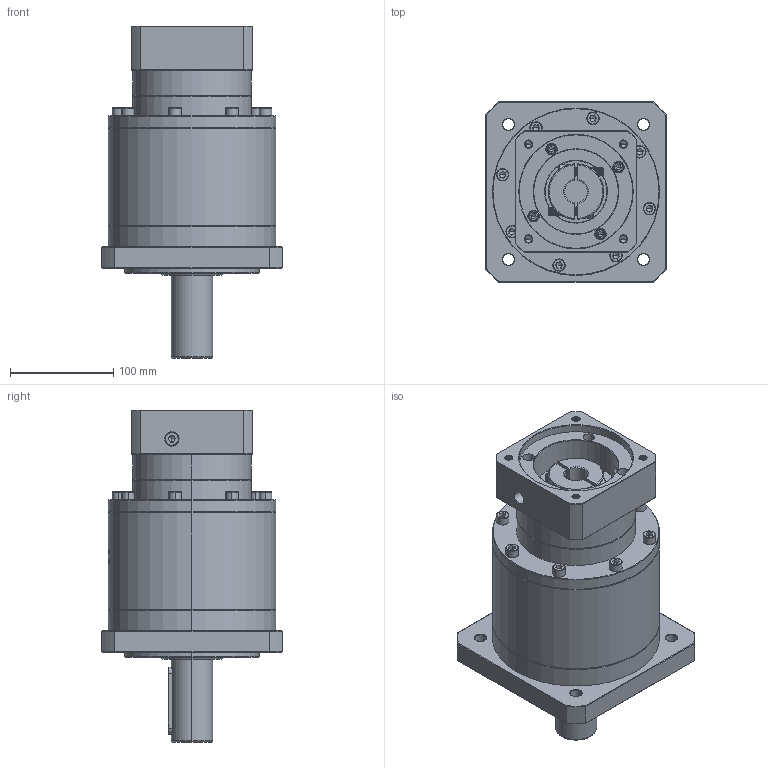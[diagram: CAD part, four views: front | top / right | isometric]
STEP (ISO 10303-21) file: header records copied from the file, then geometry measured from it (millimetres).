
FILE_DESCRIPTION (( 'STEP AP214' ), '1' );
FILE_NAME ('ZF160-D40-L3-22-110-130-M8.step', '2023-03-22T03:57:31', ( '' ), ( '' ), 'SwSTEP 2.0', 'SolidWorks 2016', '' );
FILE_SCHEMA (( 'AUTOMOTIVE_DESIGN' ));
Length unit declared in the file: millimetre
Products named in the file (1): ZF160-D40-L3-22-110-130-M8
Bounding box: 175 x 175 x 321.7 mm (x, y, z)
Volume: 4191847.8 mm3; surface area: 281165 mm2
Topology: 6 solids, 6 shells, 1873 faces, 4742 edges, 2995 vertices
Faces by surface type: plane 746, cylinder 484, cone 373, bspline 232, torus 38
Entity records: 99788 total; most frequent: CARTESIAN_POINT 36453, ORIENTED_EDGE 9376, DIRECTION 8218, EDGE_CURVE 4688, VERTEX_POINT 2995, AXIS2_PLACEMENT_3D 2853, VECTOR 2512, LINE 2512
